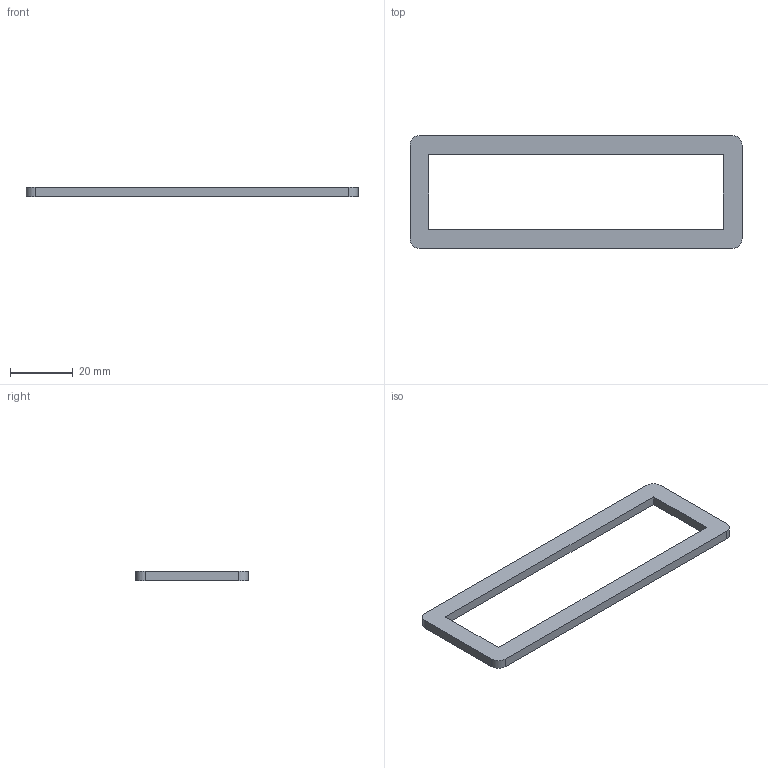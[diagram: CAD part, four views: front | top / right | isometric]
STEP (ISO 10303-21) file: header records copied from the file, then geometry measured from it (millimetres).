
FILE_DESCRIPTION(('Open CASCADE Model'),'2;1');
FILE_NAME('Open CASCADE Shape Model','2026-10-07T15:46:24',('Author'),( 'Open CASCADE'),'Open CASCADE STEP processor 7.9','Open CASCADE 7.9' ,'Unknown');
FILE_SCHEMA(('AUTOMOTIVE_DESIGN { 1 0 10303 214 1 1 1 1 }'));
Length unit declared in the file: millimetre
Products named in the file (1): Open CASCADE STEP translator 7.9 5
Bounding box: 106 x 36 x 3 mm (x, y, z)
Volume: 4656.8 mm3; surface area: 4648.6 mm2
Topology: 1 solids, 1 shells, 18 faces, 48 edges, 32 vertices
Faces by surface type: plane 10, cylinder 8
Entity records: 1202 total; most frequent: CARTESIAN_POINT 235, DIRECTION 178, ORIENTED_EDGE 96, LINE 96, VECTOR 96, PCURVE 96, DEFINITIONAL_REPRESENTATION 96, EDGE_CURVE 48
